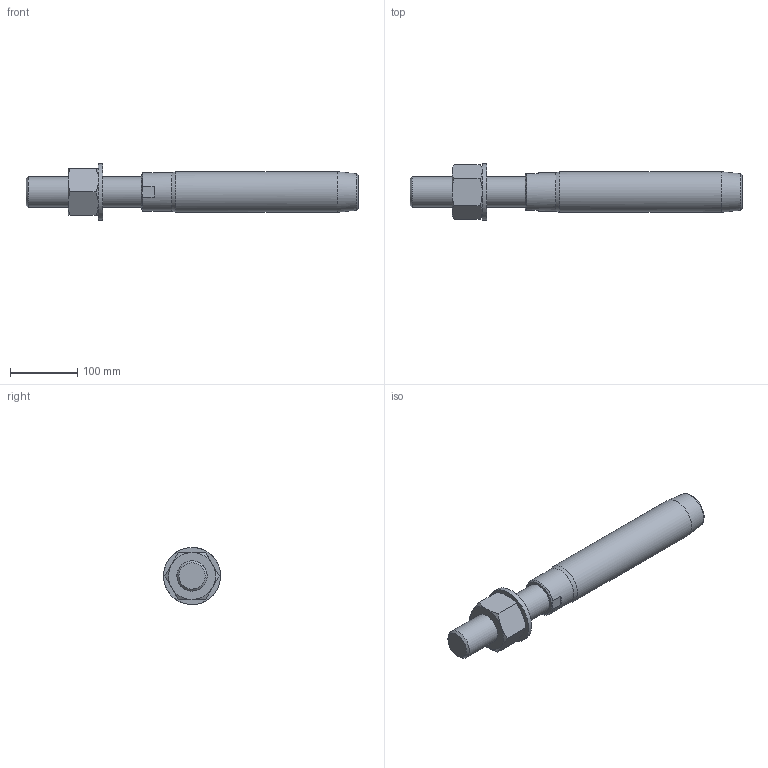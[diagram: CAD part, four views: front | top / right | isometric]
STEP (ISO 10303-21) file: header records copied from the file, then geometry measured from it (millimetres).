
FILE_DESCRIPTION(/* description */ (''),/* implementation_level */ '2;1');
FILE_NAME(/* name */ 'FLT 30_1,4462',/* time_stamp */ '2023-05-23T15:58:07+02:00',/* author */ (''),/* organization */ (''),/* preprocessor_version */ 'ST-DEVELOPER v16.5',/* originating_system */ 'Rhino 7.22',/* authorisation */ '');
FILE_SCHEMA (('CONFIG_CONTROL_DESIGN'));
Length unit declared in the file: millimetre
Products named in the file (1): Document
Bounding box: 495 x 84.94 x 84.97 mm (x, y, z)
Volume: 1332685.3 mm3; surface area: 122093.7 mm2
Topology: 3 solids, 3 shells, 42 faces, 102 edges, 67 vertices
Faces by surface type: bspline 19, plane 17, cylinder 6
Full cylindrical faces by diameter (mm): 41.752 x1, 45 x1, 46 x1, 57.2 x1, 60.5 x1, 85 x1
Entity records: 1559 total; most frequent: CARTESIAN_POINT 861, ORIENTED_EDGE 204, EDGE_CURVE 102, VERTEX_POINT 67, EDGE_LOOP 47, ADVANCED_FACE 42, FACE_OUTER_BOUND 42, DIRECTION 27
